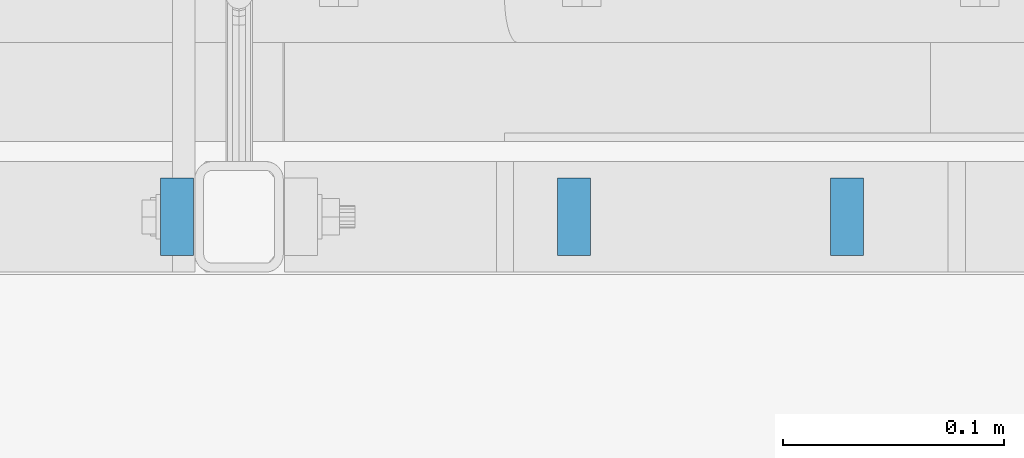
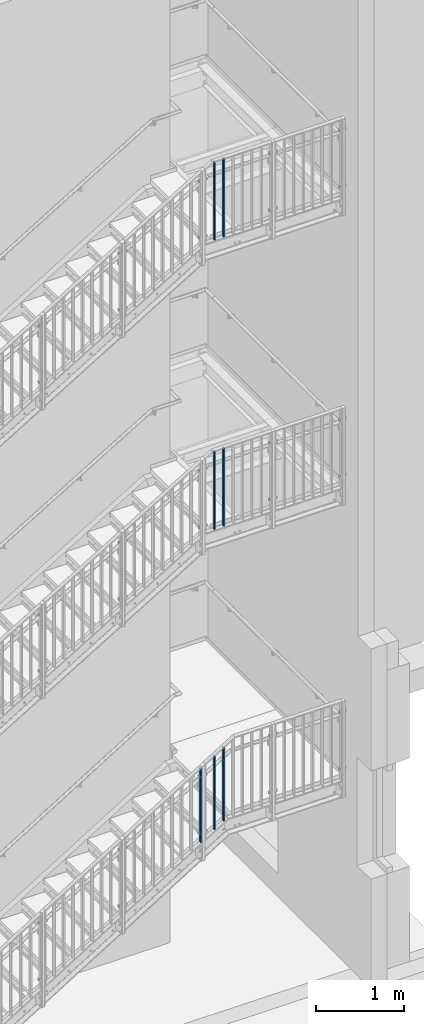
# One storey, part 17 of 410: 7 columns, 2 openings.
"""IFC2X3 building model written with IfcOpenShell, lengths in millimetres."""

from ifc_helpers import new_model, entity, si_unit, converted_unit, frame, frame_2d, origin, origin_with_axes, origin_2d, place, context, project, spatial, rectangle, circle, extrude, material, element, save


model = new_model("IFC2X3")

# Units and contexts
model_context = context("Model", 3, precision=1e-09, world=origin_with_axes())
ifc_project = project(units=[si_unit("LENGTHUNIT", "METRE", prefix="MILLI"), si_unit("AREAUNIT", "SQUARE_METRE"), si_unit("VOLUMEUNIT", "CUBIC_METRE"), converted_unit("PLANEANGLEUNIT", "DEGREE", entity("IfcPlaneAngleMeasure", 0.01745329), si_unit("PLANEANGLEUNIT", "RADIAN"), dimensions=[0, 0, 0, 0, 0, 0, 0])], contexts=[model_context])

# Site, building, storey
site_placement = place(None, origin_with_axes())
site = spatial("IfcSite", under=ifc_project, at=site_placement, Name="mKR Teilneubau & Sanierung BA1 - Ostfildern", CompositionType="ELEMENT")
building_placement = place(site_placement, origin_with_axes())
building = spatial("IfcBuilding", under=site, at=building_placement, Name="Struktur 1", CompositionType="ELEMENT")
storey_placement = place(building_placement, origin_with_axes())
storey = spatial("IfcBuildingStorey", under=building, at=storey_placement, Name="Default Storey", CompositionType="ELEMENT", Elevation=0.0)

# Columns
ifc_material = material(Name="S235JR")
for number, where, z_axis, x_axis in (
    (1, (1639.858611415, 15405.999999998, 5925.0), (0.0, 0.0, -1.0), (1.0, 0.0, 0.0)),
    (2, (1516.430040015, 15405.999999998, 5925.0), (0.0, 0.0, -1.0), (1.0, 0.0, 0.0)),
    (3, (1639.858611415, 15405.999999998, 1913.0434785), (0.0, 0.0, -1.0), (1.0, 0.0, 0.0)),
    (4, (1516.430040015, 15405.999999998, 1913.0434785), (0.0, 0.0, -1.0), (1.0, 0.0, 0.0)),
):
    element("IfcColumn", number, at=place(None, frame(where, z_axis=z_axis, x_axis=x_axis)), inside=storey, material=ifc_material, Name="-", ObjectType="-", context=model_context, shape_type="SweptSolid", body=[
        extrude(rectangle(XDim=15.0, YDim=35.0, at=origin_2d()), origin(), (0.0, 0.0, -1.0), 1085.0),
    ])
for number, where, z_axis, x_axis in (
    (5, (1516.430039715, 15405.999999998, -2247.531981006), (0.0, 0.0, -1.0), (1.0, 0.0, 0.0)),
    (6, (1639.858611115, 15405.999999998, -2171.431882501), (0.0, 0.0, -1.0), (1.0, 0.0, 0.0)),
):
    element("IfcColumn", number, at=place(None, frame(where, z_axis=z_axis, x_axis=x_axis)), inside=storey, material=ifc_material, Name="-", ObjectType="-", context=model_context, shape_type="SweptSolid", body=[
        extrude(rectangle(XDim=15.0, YDim=35.0, at=origin_2d()), origin(), (0.0, 0.0, -1.0), 1020.264209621),
    ])

# Column, openings
column_placement = place(None, frame((1337.001468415, 15405.999999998, -2363.012635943), z_axis=(0.0, 0.0, -1.0), x_axis=(1.0, 0.0, 0.0)))
column = element("IfcColumn", 7, at=column_placement, inside=storey, material=ifc_material, Name="-", ObjectType="-", context=model_context, shape_type="SweptSolid", body=[
    extrude(rectangle(XDim=15.0, YDim=35.0, at=origin_2d()), origin(), (0.0, 0.0, -1.0), 1025.117869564),
])
opening_1_placement = place(column_placement, frame((8.0, -6.001, -126.083234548), z_axis=(1.0, 0.0, 0.0), x_axis=(0.0, 1.0, 0.0)))
element("IfcOpeningElement", 8, at=opening_1_placement, cuts=column, ObjectType="Opening", context=model_context, shape_type="SweptSolid", body=[
    extrude(circle(Radius=6.001, at=frame_2d((6.001, 0.0), x_axis=(1.0, 0.0))), origin(), (0.0, 0.0, -1.0), 16.0),
])
opening_2_placement = place(column_placement, frame((8.0, -6.001, -911.083234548), z_axis=(1.0, 0.0, 0.0), x_axis=(0.0, 1.0, 0.0)))
element("IfcOpeningElement", 9, at=opening_2_placement, cuts=column, ObjectType="Opening", context=model_context, shape_type="SweptSolid", body=[
    extrude(circle(Radius=6.001, at=frame_2d((6.001, 0.0), x_axis=(1.0, 0.0))), origin(), (0.0, 0.0, -1.0), 16.0),
])

save(model, "model.ifc")
